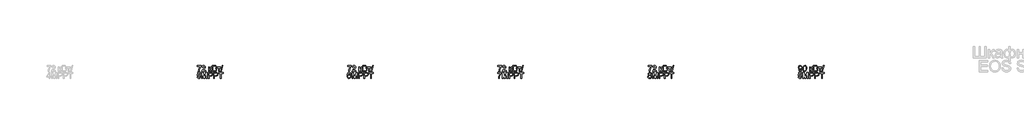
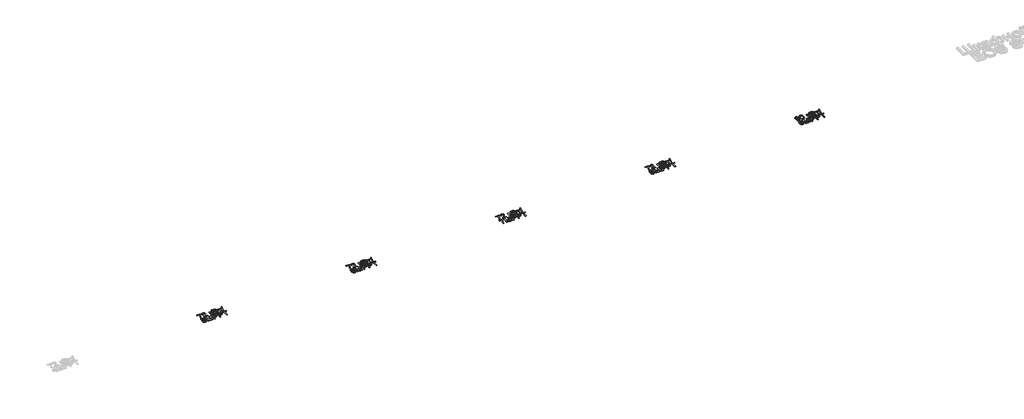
# One storey, part 23 of 26: 5 proxies.
"""IFC4 building model written with IfcOpenShell, lengths in millimetres."""

from ifc_helpers import new_model, si_unit, origin, origin_with_axes, place, context, project, spatial, polyline, outline, extrude, element, save

model = new_model("IFC4")

# Units and contexts
model_context = context("Model", 3, world=origin())
ifc_project = project(units=[si_unit("LENGTHUNIT", "METRE", prefix="MILLI")], contexts=[model_context])

# Site, building, storey
site = spatial("IfcSite", under=ifc_project)
building = spatial("IfcBuilding", under=site)
storey = spatial("IfcBuildingStorey", under=building, Name="Этаж 01", Elevation=0.0)

# Proxies
placement = place(None, origin())
element("IfcBuildingElementProxy", 1, Name="75 мм Arial", ObjectType="75 мм Arial", at=placement, inside=storey, context=model_context, shape_type="SweptSolid", body=[
    extrude(outline(polyline([(3781.5585542, -6950.1268309), (3781.5585542, -6940.7090518), (3831.0018943, -6940.7090518), (3831.0018943, -6948.3242091), (3816.9763933, -6968.58531), (3806.2434361, -6994.401429), (3802.7485571, -7014.874062), (3793.330778, -7014.874062), (3797.0739773, -6993.6288768), (3807.3470821, -6969.6153796), (3821.5841153, -6950.1268309), (3781.5585542, -6950.1268309)])), origin_with_axes(), (0.0, 0.0, 1.0), 5.0),
    extrude(outline(polyline([(3887.5085688, -7005.456283), (3887.5085688, -7014.874062), (3838.0652287, -7014.874062), (3839.0769041, -7008.3809448), (3844.7974692, -6998.3837516), (3856.5880871, -6987.4668534), (3872.8484713, -6971.7766863), (3876.9135673, -6961.1081084), (3873.0783975, -6952.4720786), (3863.0628102, -6948.9496085), (3852.6241586, -6952.3893052), (3848.6602301, -6961.8990547), (3839.242451, -6960.7218323), (3841.5256187, -6951.6121544), (3846.4621352, -6944.9580888), (3853.7944832, -6940.8883943), (3863.2651453, -6939.5318294), (3872.8047853, -6941.0401456), (3880.1233378, -6945.5650941), (3884.7793443, -6952.3249258), (3886.3313464, -6960.5378913), (3884.6574833, -6969.4682268), (3879.0932682, -6978.7020649), (3865.601196, -6991.6055258), (3854.7670712, -7000.66462), (3850.5180342, -7005.456283), (3887.5085688, -7005.456283)])), origin_with_axes(), (0.0, 0.0, 1.0), 5.0),
    extrude(outline(polyline([(3928.7113523, -6959.54461), (3938.1291313, -6959.54461), (3938.1291313, -6983.0890576), (3944.4383076, -6981.3968005), (3949.6070496, -6971.537563), (3953.9020719, -6963.0302919), (3957.6912564, -6960.2619798), (3964.5798468, -6959.54461), (3966.3824686, -6959.54461), (3966.3824686, -6969.0175713), (3963.8440828, -6968.962389), (3959.2455579, -6969.9556704), (3956.0081963, -6976.154482), (3952.2098147, -6982.8591314), (3946.8847228, -6986.1424782), (3958.6569467, -6997.528426), (3968.7369133, -7014.874062), (3958.0315473, -7014.874062), (3948.1539157, -6997.896308), (3943.1875088, -6990.713412), (3938.1291313, -6988.9751696), (3938.1291313, -7014.874062), (3928.7113523, -7014.874062), (3928.7113523, -6959.54461)])), origin_with_axes(), (0.0, 0.0, 1.0), 5.0),
    extrude(outline(polyline([(3975.8002476, -7014.874062), (3975.8002476, -6939.5318294), (4004.5502256, -6939.5318294), (4018.6309089, -6941.7483184), (4026.945042, -6948.5633324), (4029.9524773, -6958.2018407), (4027.4232886, -6967.0034174), (4019.7805402, -6973.6712786), (4029.0603635, -6980.6978247), (4032.3069221, -6992.4148662), (4030.0904331, -7002.5408181), (4024.5997943, -7009.7513052), (4016.4052229, -7013.577278), (4004.3294964, -7014.874062), (3975.8002476, -7014.874062)]), holes=[polyline([(3985.2180267, -7005.456283), (4004.5318315, -7005.456283), (4011.5215894, -7005.088401), (4017.4352925, -7003.0374588), (4021.3532357, -6998.8528011), (4022.889143, -6992.5068367), (4021.0865213, -6985.185985), (4015.2463946, -6980.8173863), (4003.6121265, -6979.5573905), (3985.2180267, -6979.5573905), (3985.2180267, -7005.456283)]), polyline([(3985.2180267, -6970.1396114), (4002.41651, -6970.1396114), (4012.4596885, -6969.330271), (4018.5021502, -6965.8445891), (4020.5346983, -6959.7101569), (4018.640106, -6953.5665275), (4013.2138466, -6949.9336928), (4001.1105289, -6948.9496085), (3985.2180267, -6948.9496085), (3985.2180267, -6970.1396114)])]), origin_with_axes(), (0.0, 0.0, 1.0), 5.0),
    extrude(outline(polyline([(4039.3702564, -6959.54461), (4084.104707, -6959.54461), (4084.104707, -6968.962389), (4066.4463713, -6968.962389), (4066.4463713, -7014.874062), (4057.0285922, -7014.874062), (4057.0285922, -6968.962389), (4039.3702564, -6968.962389), (4039.3702564, -6959.54461)])), origin_with_axes(), (0.0, 0.0, 1.0), 5.0),
    extrude(outline(polyline([(4085.2819294, -7014.874062), (4106.4719323, -6939.5318294), (4114.9700064, -6939.5318294), (4093.7800035, -7014.874062), (4085.2819294, -7014.874062)])), origin_with_axes(), (0.0, 0.0, 1.0), 5.0),
    extrude(outline(polyline([(3777.4382759, -7086.3423949), (3786.8560549, -7085.1651725), (3791.6017327, -7094.8680601), (3801.442576, -7098.1146187), (3813.2515881, -7093.5988672), (3817.4638369, -7081.6151112), (3813.5183025, -7070.4314986), (3801.5897288, -7066.3296143), (3793.321581, -7067.9666892), (3788.0332773, -7072.2157263), (3778.6154982, -7071.0385039), (3786.8560549, -7032.1901652), (3823.3499488, -7032.1901652), (3823.3499488, -7041.6079443), (3794.4712122, -7041.6079443), (3790.4429044, -7062.3564888), (3804.2200851, -7056.9118353), (3813.0193626, -7058.5994939), (3820.3241194, -7063.6624699), (3825.2422419, -7071.3787947), (3826.881616, -7081.0265), (3825.4054895, -7090.4442791), (3820.97711, -7098.5008948), (3812.49743, -7105.2745221), (3801.4057878, -7107.5323978), (3792.1558549, -7106.0815632), (3784.7867187, -7101.7290593), (3779.7352391, -7094.980724), (3777.4382759, -7086.3423949)])), origin_with_axes(), (0.0, 0.0, 1.0), 5.0),
    extrude(outline(polyline([(3838.6538398, -7106.3551754), (3838.6538398, -7031.0129428), (3854.8590417, -7031.0129428), (3870.2732973, -7084.1167088), (3873.3819002, -7095.208351), (3876.7480204, -7083.1970038), (3891.9047586, -7031.0129428), (3908.1099605, -7031.0129428), (3908.1099605, -7106.3551754), (3898.6921815, -7106.3551754), (3898.6921815, -7040.4307219), (3879.7646528, -7106.3551754), (3866.9991476, -7106.3551754), (3848.0716189, -7040.4307219), (3848.0716189, -7106.3551754), (3838.6538398, -7106.3551754)])), origin_with_axes(), (0.0, 0.0, 1.0), 5.0),
    extrude(outline(polyline([(3924.5910739, -7106.3551754), (3924.5910739, -7031.0129428), (3952.5133174, -7031.0129428), (3963.7705064, -7031.7303127), (3972.921571, -7035.2527828), (3978.8536682, -7042.5368463), (3981.0977484, -7052.809951), (3979.5825344, -7061.6897027), (3975.0368925, -7069.0887293), (3966.5365192, -7074.0827274), (3953.1571108, -7075.7473934), (3934.008853, -7075.7473934), (3934.008853, -7106.3551754), (3924.5910739, -7106.3551754)]), holes=[polyline([(3934.008853, -7066.3296143), (3953.7089338, -7066.3296143), (3967.5780851, -7062.8715236), (3971.6799693, -7053.1410448), (3969.2611452, -7045.3419465), (3962.9059837, -7041.0745154), (3953.4882046, -7040.4307219), (3934.008853, -7040.4307219), (3934.008853, -7066.3296143)])]), origin_with_axes(), (0.0, 0.0, 1.0), 5.0),
    extrude(outline(polyline([(3994.0471946, -7106.3551754), (3994.0471946, -7031.0129428), (4021.969438, -7031.0129428), (4033.2266271, -7031.7303127), (4042.3776917, -7035.2527828), (4048.3097889, -7042.5368463), (4050.5538691, -7052.809951), (4049.0386551, -7061.6897027), (4044.4930132, -7069.0887293), (4035.9926398, -7074.0827274), (4022.6132315, -7075.7473934), (4003.4649737, -7075.7473934), (4003.4649737, -7106.3551754), (3994.0471946, -7106.3551754)]), holes=[polyline([(4003.4649737, -7066.3296143), (4023.1650545, -7066.3296143), (4037.0342057, -7062.8715236), (4041.13609, -7053.1410448), (4038.7172659, -7045.3419465), (4032.3621044, -7041.0745154), (4022.9443253, -7040.4307219), (4003.4649737, -7040.4307219), (4003.4649737, -7066.3296143)])]), origin_with_axes(), (0.0, 0.0, 1.0), 5.0),
    extrude(outline(polyline([(4082.3388735, -7106.3551754), (4082.3388735, -7040.4307219), (4057.6172034, -7040.4307219), (4057.6172034, -7031.0129428), (4116.4783226, -7031.0129428), (4116.4783226, -7040.4307219), (4091.7566525, -7040.4307219), (4091.7566525, -7106.3551754), (4082.3388735, -7106.3551754)])), origin_with_axes(), (0.0, 0.0, 1.0), 5.0),
])
element("IfcBuildingElementProxy", 2, Name="75 мм Arial", ObjectType="75 мм Arial", at=placement, inside=storey, context=model_context, shape_type="SweptSolid", body=[
    extrude(outline(polyline([(5741.5585542, -6950.1268309), (5741.5585542, -6940.7090518), (5791.0018943, -6940.7090518), (5791.0018943, -6948.3242091), (5776.9763933, -6968.58531), (5766.2434361, -6994.401429), (5762.7485571, -7014.874062), (5753.330778, -7014.874062), (5757.0739773, -6993.6288768), (5767.3470821, -6969.6153796), (5781.5841153, -6950.1268309), (5741.5585542, -6950.1268309)])), origin_with_axes(), (0.0, 0.0, 1.0), 5.0),
    extrude(outline(polyline([(5847.5085688, -7005.456283), (5847.5085688, -7014.874062), (5798.0652287, -7014.874062), (5799.0769041, -7008.3809448), (5804.7974692, -6998.3837516), (5816.5880871, -6987.4668534), (5832.8484713, -6971.7766863), (5836.9135673, -6961.1081084), (5833.0783975, -6952.4720786), (5823.0628102, -6948.9496085), (5812.6241586, -6952.3893052), (5808.6602301, -6961.8990547), (5799.242451, -6960.7218323), (5801.5256187, -6951.6121544), (5806.4621352, -6944.9580888), (5813.7944832, -6940.8883943), (5823.2651453, -6939.5318294), (5832.8047853, -6941.0401456), (5840.1233378, -6945.5650941), (5844.7793443, -6952.3249258), (5846.3313464, -6960.5378913), (5844.6574833, -6969.4682268), (5839.0932682, -6978.7020649), (5825.601196, -6991.6055258), (5814.7670712, -7000.66462), (5810.5180342, -7005.456283), (5847.5085688, -7005.456283)])), origin_with_axes(), (0.0, 0.0, 1.0), 5.0),
    extrude(outline(polyline([(5888.7113523, -6959.54461), (5898.1291313, -6959.54461), (5898.1291313, -6983.0890576), (5904.4383076, -6981.3968005), (5909.6070496, -6971.537563), (5913.9020719, -6963.0302919), (5917.6912564, -6960.2619798), (5924.5798468, -6959.54461), (5926.3824686, -6959.54461), (5926.3824686, -6969.0175713), (5923.8440828, -6968.962389), (5919.2455579, -6969.9556704), (5916.0081963, -6976.154482), (5912.2098147, -6982.8591314), (5906.8847228, -6986.1424782), (5918.6569467, -6997.528426), (5928.7369133, -7014.874062), (5918.0315473, -7014.874062), (5908.1539157, -6997.896308), (5903.1875088, -6990.713412), (5898.1291313, -6988.9751696), (5898.1291313, -7014.874062), (5888.7113523, -7014.874062), (5888.7113523, -6959.54461)])), origin_with_axes(), (0.0, 0.0, 1.0), 5.0),
    extrude(outline(polyline([(5935.8002476, -7014.874062), (5935.8002476, -6939.5318294), (5964.5502256, -6939.5318294), (5978.6309089, -6941.7483184), (5986.945042, -6948.5633324), (5989.9524773, -6958.2018407), (5987.4232886, -6967.0034174), (5979.7805402, -6973.6712786), (5989.0603635, -6980.6978247), (5992.3069221, -6992.4148662), (5990.0904331, -7002.5408181), (5984.5997943, -7009.7513052), (5976.4052229, -7013.577278), (5964.3294964, -7014.874062), (5935.8002476, -7014.874062)]), holes=[polyline([(5945.2180267, -7005.456283), (5964.5318315, -7005.456283), (5971.5215894, -7005.088401), (5977.4352925, -7003.0374588), (5981.3532357, -6998.8528011), (5982.889143, -6992.5068367), (5981.0865213, -6985.185985), (5975.2463946, -6980.8173863), (5963.6121265, -6979.5573905), (5945.2180267, -6979.5573905), (5945.2180267, -7005.456283)]), polyline([(5945.2180267, -6970.1396114), (5962.41651, -6970.1396114), (5972.4596885, -6969.330271), (5978.5021502, -6965.8445891), (5980.5346983, -6959.7101569), (5978.640106, -6953.5665275), (5973.2138466, -6949.9336928), (5961.1105289, -6948.9496085), (5945.2180267, -6948.9496085), (5945.2180267, -6970.1396114)])]), origin_with_axes(), (0.0, 0.0, 1.0), 5.0),
    extrude(outline(polyline([(5999.3702564, -6959.54461), (6044.104707, -6959.54461), (6044.104707, -6968.962389), (6026.4463713, -6968.962389), (6026.4463713, -7014.874062), (6017.0285922, -7014.874062), (6017.0285922, -6968.962389), (5999.3702564, -6968.962389), (5999.3702564, -6959.54461)])), origin_with_axes(), (0.0, 0.0, 1.0), 5.0),
    extrude(outline(polyline([(6045.2819294, -7014.874062), (6066.4719323, -6939.5318294), (6074.9700064, -6939.5318294), (6053.7800035, -7014.874062), (6045.2819294, -7014.874062)])), origin_with_axes(), (0.0, 0.0, 1.0), 5.0),
    extrude(outline(polyline([(5785.7043936, -7051.0257233), (5776.2866145, -7052.2029457), (5772.7181592, -7044.3486651), (5763.281986, -7040.4307219), (5754.7839119, -7042.7115902), (5748.3551741, -7051.2740437), (5745.6788325, -7068.0586597), (5753.9837686, -7060.54467), (5764.2752674, -7058.0890576), (5772.9756766, -7059.7675193), (5780.2781342, -7064.8029041), (5785.2307455, -7072.4962363), (5786.881616, -7082.1485401), (5783.7730131, -7095.1439716), (5775.2197568, -7104.3410215), (5762.8773158, -7107.5323978), (5752.1926431, -7105.4170763), (5743.6830727, -7099.0711119), (5738.1165583, -7087.8691052), (5736.2610535, -7071.1856567), (5738.3211926, -7052.4282734), (5744.5016102, -7039.6029874), (5752.9399034, -7033.160454), (5763.8705972, -7031.0129428), (5778.7514239, -7036.3288376), (5785.7043936, -7051.0257233)]), holes=[polyline([(5745.6788325, -7082.0013873), (5747.8585334, -7090.1591706), (5753.6526748, -7096.0820707), (5762.1415518, -7098.1146187), (5773.242391, -7093.9023699), (5777.4638369, -7082.4612398), (5773.2975733, -7071.5075534), (5761.7552757, -7067.5068367), (5750.3601309, -7071.5075534), (5745.6788325, -7082.0013873)])]), origin_with_axes(), (0.0, 0.0, 1.0), 5.0),
    extrude(outline(polyline([(5798.6538398, -7106.3551754), (5798.6538398, -7031.0129428), (5814.8590417, -7031.0129428), (5830.2732973, -7084.1167088), (5833.3819002, -7095.208351), (5836.7480204, -7083.1970038), (5851.9047586, -7031.0129428), (5868.1099605, -7031.0129428), (5868.1099605, -7106.3551754), (5858.6921815, -7106.3551754), (5858.6921815, -7040.4307219), (5839.7646528, -7106.3551754), (5826.9991476, -7106.3551754), (5808.0716189, -7040.4307219), (5808.0716189, -7106.3551754), (5798.6538398, -7106.3551754)])), origin_with_axes(), (0.0, 0.0, 1.0), 5.0),
    extrude(outline(polyline([(5884.5910739, -7106.3551754), (5884.5910739, -7031.0129428), (5912.5133174, -7031.0129428), (5923.7705064, -7031.7303127), (5932.921571, -7035.2527828), (5938.8536682, -7042.5368463), (5941.0977484, -7052.809951), (5939.5825344, -7061.6897027), (5935.0368925, -7069.0887293), (5926.5365192, -7074.0827274), (5913.1571108, -7075.7473934), (5894.008853, -7075.7473934), (5894.008853, -7106.3551754), (5884.5910739, -7106.3551754)]), holes=[polyline([(5894.008853, -7066.3296143), (5913.7089338, -7066.3296143), (5927.5780851, -7062.8715236), (5931.6799693, -7053.1410448), (5929.2611452, -7045.3419465), (5922.9059837, -7041.0745154), (5913.4882046, -7040.4307219), (5894.008853, -7040.4307219), (5894.008853, -7066.3296143)])]), origin_with_axes(), (0.0, 0.0, 1.0), 5.0),
    extrude(outline(polyline([(5954.0471946, -7106.3551754), (5954.0471946, -7031.0129428), (5981.969438, -7031.0129428), (5993.2266271, -7031.7303127), (6002.3776917, -7035.2527828), (6008.3097889, -7042.5368463), (6010.5538691, -7052.809951), (6009.0386551, -7061.6897027), (6004.4930132, -7069.0887293), (5995.9926398, -7074.0827274), (5982.6132315, -7075.7473934), (5963.4649737, -7075.7473934), (5963.4649737, -7106.3551754), (5954.0471946, -7106.3551754)]), holes=[polyline([(5963.4649737, -7066.3296143), (5983.1650545, -7066.3296143), (5997.0342057, -7062.8715236), (6001.13609, -7053.1410448), (5998.7172659, -7045.3419465), (5992.3621044, -7041.0745154), (5982.9443253, -7040.4307219), (5963.4649737, -7040.4307219), (5963.4649737, -7066.3296143)])]), origin_with_axes(), (0.0, 0.0, 1.0), 5.0),
    extrude(outline(polyline([(6042.3388735, -7106.3551754), (6042.3388735, -7040.4307219), (6017.6172034, -7040.4307219), (6017.6172034, -7031.0129428), (6076.4783226, -7031.0129428), (6076.4783226, -7040.4307219), (6051.7566525, -7040.4307219), (6051.7566525, -7106.3551754), (6042.3388735, -7106.3551754)])), origin_with_axes(), (0.0, 0.0, 1.0), 5.0),
])
element("IfcBuildingElementProxy", 3, Name="75 мм Arial", ObjectType="75 мм Arial", at=placement, inside=storey, context=model_context, shape_type="SweptSolid", body=[
    extrude(outline(polyline([(7701.5585542, -6950.1268309), (7701.5585542, -6940.7090518), (7751.0018943, -6940.7090518), (7751.0018943, -6948.3242091), (7736.9763933, -6968.58531), (7726.2434361, -6994.401429), (7722.7485571, -7014.874062), (7713.330778, -7014.874062), (7717.0739773, -6993.6288768), (7727.3470821, -6969.6153796), (7741.5841153, -6950.1268309), (7701.5585542, -6950.1268309)])), origin_with_axes(), (0.0, 0.0, 1.0), 5.0),
    extrude(outline(polyline([(7807.5085688, -7005.456283), (7807.5085688, -7014.874062), (7758.0652287, -7014.874062), (7759.0769041, -7008.3809448), (7764.7974692, -6998.3837516), (7776.5880871, -6987.4668534), (7792.8484713, -6971.7766863), (7796.9135673, -6961.1081084), (7793.0783975, -6952.4720786), (7783.0628102, -6948.9496085), (7772.6241586, -6952.3893052), (7768.6602301, -6961.8990547), (7759.242451, -6960.7218323), (7761.5256187, -6951.6121544), (7766.4621352, -6944.9580888), (7773.7944832, -6940.8883943), (7783.2651453, -6939.5318294), (7792.8047853, -6941.0401456), (7800.1233378, -6945.5650941), (7804.7793443, -6952.3249258), (7806.3313464, -6960.5378913), (7804.6574833, -6969.4682268), (7799.0932682, -6978.7020649), (7785.601196, -6991.6055258), (7774.7670712, -7000.66462), (7770.5180342, -7005.456283), (7807.5085688, -7005.456283)])), origin_with_axes(), (0.0, 0.0, 1.0), 5.0),
    extrude(outline(polyline([(7848.7113523, -6959.54461), (7858.1291313, -6959.54461), (7858.1291313, -6983.0890576), (7864.4383076, -6981.3968005), (7869.6070496, -6971.537563), (7873.9020719, -6963.0302919), (7877.6912564, -6960.2619798), (7884.5798468, -6959.54461), (7886.3824686, -6959.54461), (7886.3824686, -6969.0175713), (7883.8440828, -6968.962389), (7879.2455579, -6969.9556704), (7876.0081963, -6976.154482), (7872.2098147, -6982.8591314), (7866.8847228, -6986.1424782), (7878.6569467, -6997.528426), (7888.7369133, -7014.874062), (7878.0315473, -7014.874062), (7868.1539157, -6997.896308), (7863.1875088, -6990.713412), (7858.1291313, -6988.9751696), (7858.1291313, -7014.874062), (7848.7113523, -7014.874062), (7848.7113523, -6959.54461)])), origin_with_axes(), (0.0, 0.0, 1.0), 5.0),
    extrude(outline(polyline([(7895.8002476, -7014.874062), (7895.8002476, -6939.5318294), (7924.5502256, -6939.5318294), (7938.6309089, -6941.7483184), (7946.945042, -6948.5633324), (7949.9524773, -6958.2018407), (7947.4232886, -6967.0034174), (7939.7805402, -6973.6712786), (7949.0603635, -6980.6978247), (7952.3069221, -6992.4148662), (7950.0904331, -7002.5408181), (7944.5997943, -7009.7513052), (7936.4052229, -7013.577278), (7924.3294964, -7014.874062), (7895.8002476, -7014.874062)]), holes=[polyline([(7905.2180267, -7005.456283), (7924.5318315, -7005.456283), (7931.5215894, -7005.088401), (7937.4352925, -7003.0374588), (7941.3532357, -6998.8528011), (7942.889143, -6992.5068367), (7941.0865213, -6985.185985), (7935.2463946, -6980.8173863), (7923.6121265, -6979.5573905), (7905.2180267, -6979.5573905), (7905.2180267, -7005.456283)]), polyline([(7905.2180267, -6970.1396114), (7922.41651, -6970.1396114), (7932.4596885, -6969.330271), (7938.5021502, -6965.8445891), (7940.5346983, -6959.7101569), (7938.640106, -6953.5665275), (7933.2138466, -6949.9336928), (7921.1105289, -6948.9496085), (7905.2180267, -6948.9496085), (7905.2180267, -6970.1396114)])]), origin_with_axes(), (0.0, 0.0, 1.0), 5.0),
    extrude(outline(polyline([(7959.3702564, -6959.54461), (8004.104707, -6959.54461), (8004.104707, -6968.962389), (7986.4463713, -6968.962389), (7986.4463713, -7014.874062), (7977.0285922, -7014.874062), (7977.0285922, -6968.962389), (7959.3702564, -6968.962389), (7959.3702564, -6959.54461)])), origin_with_axes(), (0.0, 0.0, 1.0), 5.0),
    extrude(outline(polyline([(8005.2819294, -7014.874062), (8026.4719323, -6939.5318294), (8034.9700064, -6939.5318294), (8013.7800035, -7014.874062), (8005.2819294, -7014.874062)])), origin_with_axes(), (0.0, 0.0, 1.0), 5.0),
    extrude(outline(polyline([(7697.4382759, -7041.6079443), (7697.4382759, -7032.1901652), (7746.881616, -7032.1901652), (7746.881616, -7039.8053225), (7732.8561149, -7060.0664234), (7722.1231577, -7085.8825424), (7718.6282788, -7106.3551754), (7709.2104997, -7106.3551754), (7712.953699, -7085.1099902), (7723.2268037, -7061.096493), (7737.4638369, -7041.6079443), (7697.4382759, -7041.6079443)])), origin_with_axes(), (0.0, 0.0, 1.0), 5.0),
    extrude(outline(polyline([(7758.6538398, -7106.3551754), (7758.6538398, -7031.0129428), (7774.8590417, -7031.0129428), (7790.2732973, -7084.1167088), (7793.3819002, -7095.208351), (7796.7480204, -7083.1970038), (7811.9047586, -7031.0129428), (7828.1099605, -7031.0129428), (7828.1099605, -7106.3551754), (7818.6921815, -7106.3551754), (7818.6921815, -7040.4307219), (7799.7646528, -7106.3551754), (7786.9991476, -7106.3551754), (7768.0716189, -7040.4307219), (7768.0716189, -7106.3551754), (7758.6538398, -7106.3551754)])), origin_with_axes(), (0.0, 0.0, 1.0), 5.0),
    extrude(outline(polyline([(7844.5910739, -7106.3551754), (7844.5910739, -7031.0129428), (7872.5133174, -7031.0129428), (7883.7705064, -7031.7303127), (7892.921571, -7035.2527828), (7898.8536682, -7042.5368463), (7901.0977484, -7052.809951), (7899.5825344, -7061.6897027), (7895.0368925, -7069.0887293), (7886.5365192, -7074.0827274), (7873.1571108, -7075.7473934), (7854.008853, -7075.7473934), (7854.008853, -7106.3551754), (7844.5910739, -7106.3551754)]), holes=[polyline([(7854.008853, -7066.3296143), (7873.7089338, -7066.3296143), (7887.5780851, -7062.8715236), (7891.6799693, -7053.1410448), (7889.2611452, -7045.3419465), (7882.9059837, -7041.0745154), (7873.4882046, -7040.4307219), (7854.008853, -7040.4307219), (7854.008853, -7066.3296143)])]), origin_with_axes(), (0.0, 0.0, 1.0), 5.0),
    extrude(outline(polyline([(7914.0471946, -7106.3551754), (7914.0471946, -7031.0129428), (7941.969438, -7031.0129428), (7953.2266271, -7031.7303127), (7962.3776917, -7035.2527828), (7968.3097889, -7042.5368463), (7970.5538691, -7052.809951), (7969.0386551, -7061.6897027), (7964.4930132, -7069.0887293), (7955.9926398, -7074.0827274), (7942.6132315, -7075.7473934), (7923.4649737, -7075.7473934), (7923.4649737, -7106.3551754), (7914.0471946, -7106.3551754)]), holes=[polyline([(7923.4649737, -7066.3296143), (7943.1650545, -7066.3296143), (7957.0342057, -7062.8715236), (7961.13609, -7053.1410448), (7958.7172659, -7045.3419465), (7952.3621044, -7041.0745154), (7942.9443253, -7040.4307219), (7923.4649737, -7040.4307219), (7923.4649737, -7066.3296143)])]), origin_with_axes(), (0.0, 0.0, 1.0), 5.0),
    extrude(outline(polyline([(8002.3388735, -7106.3551754), (8002.3388735, -7040.4307219), (7977.6172034, -7040.4307219), (7977.6172034, -7031.0129428), (8036.4783226, -7031.0129428), (8036.4783226, -7040.4307219), (8011.7566525, -7040.4307219), (8011.7566525, -7106.3551754), (8002.3388735, -7106.3551754)])), origin_with_axes(), (0.0, 0.0, 1.0), 5.0),
])
element("IfcBuildingElementProxy", 4, Name="75 мм Arial", ObjectType="75 мм Arial", at=placement, inside=storey, context=model_context, shape_type="SweptSolid", body=[
    extrude(outline(polyline([(9661.5585542, -6950.1268309), (9661.5585542, -6940.7090518), (9711.0018943, -6940.7090518), (9711.0018943, -6948.3242091), (9696.9763933, -6968.58531), (9686.2434361, -6994.401429), (9682.7485571, -7014.874062), (9673.330778, -7014.874062), (9677.0739773, -6993.6288768), (9687.3470821, -6969.6153796), (9701.5841153, -6950.1268309), (9661.5585542, -6950.1268309)])), origin_with_axes(), (0.0, 0.0, 1.0), 5.0),
    extrude(outline(polyline([(9767.5085688, -7005.456283), (9767.5085688, -7014.874062), (9718.0652287, -7014.874062), (9719.0769041, -7008.3809448), (9724.7974692, -6998.3837516), (9736.5880871, -6987.4668534), (9752.8484713, -6971.7766863), (9756.9135673, -6961.1081084), (9753.0783975, -6952.4720786), (9743.0628102, -6948.9496085), (9732.6241586, -6952.3893052), (9728.6602301, -6961.8990547), (9719.242451, -6960.7218323), (9721.5256187, -6951.6121544), (9726.4621352, -6944.9580888), (9733.7944832, -6940.8883943), (9743.2651453, -6939.5318294), (9752.8047853, -6941.0401456), (9760.1233378, -6945.5650941), (9764.7793443, -6952.3249258), (9766.3313464, -6960.5378913), (9764.6574833, -6969.4682268), (9759.0932682, -6978.7020649), (9745.601196, -6991.6055258), (9734.7670712, -7000.66462), (9730.5180342, -7005.456283), (9767.5085688, -7005.456283)])), origin_with_axes(), (0.0, 0.0, 1.0), 5.0),
    extrude(outline(polyline([(9808.7113523, -6959.54461), (9818.1291313, -6959.54461), (9818.1291313, -6983.0890576), (9824.4383076, -6981.3968005), (9829.6070496, -6971.537563), (9833.9020719, -6963.0302919), (9837.6912564, -6960.2619798), (9844.5798468, -6959.54461), (9846.3824686, -6959.54461), (9846.3824686, -6969.0175713), (9843.8440828, -6968.962389), (9839.2455579, -6969.9556704), (9836.0081963, -6976.154482), (9832.2098147, -6982.8591314), (9826.8847228, -6986.1424782), (9838.6569467, -6997.528426), (9848.7369133, -7014.874062), (9838.0315473, -7014.874062), (9828.1539157, -6997.896308), (9823.1875088, -6990.713412), (9818.1291313, -6988.9751696), (9818.1291313, -7014.874062), (9808.7113523, -7014.874062), (9808.7113523, -6959.54461)])), origin_with_axes(), (0.0, 0.0, 1.0), 5.0),
    extrude(outline(polyline([(9855.8002476, -7014.874062), (9855.8002476, -6939.5318294), (9884.5502256, -6939.5318294), (9898.6309089, -6941.7483184), (9906.945042, -6948.5633324), (9909.9524773, -6958.2018407), (9907.4232886, -6967.0034174), (9899.7805402, -6973.6712786), (9909.0603635, -6980.6978247), (9912.3069221, -6992.4148662), (9910.0904331, -7002.5408181), (9904.5997943, -7009.7513052), (9896.4052229, -7013.577278), (9884.3294964, -7014.874062), (9855.8002476, -7014.874062)]), holes=[polyline([(9865.2180267, -7005.456283), (9884.5318315, -7005.456283), (9891.5215894, -7005.088401), (9897.4352925, -7003.0374588), (9901.3532357, -6998.8528011), (9902.889143, -6992.5068367), (9901.0865213, -6985.185985), (9895.2463946, -6980.8173863), (9883.6121265, -6979.5573905), (9865.2180267, -6979.5573905), (9865.2180267, -7005.456283)]), polyline([(9865.2180267, -6970.1396114), (9882.41651, -6970.1396114), (9892.4596885, -6969.330271), (9898.5021502, -6965.8445891), (9900.5346983, -6959.7101569), (9898.640106, -6953.5665275), (9893.2138466, -6949.9336928), (9881.1105289, -6948.9496085), (9865.2180267, -6948.9496085), (9865.2180267, -6970.1396114)])]), origin_with_axes(), (0.0, 0.0, 1.0), 5.0),
    extrude(outline(polyline([(9919.3702564, -6959.54461), (9964.104707, -6959.54461), (9964.104707, -6968.962389), (9946.4463713, -6968.962389), (9946.4463713, -7014.874062), (9937.0285922, -7014.874062), (9937.0285922, -6968.962389), (9919.3702564, -6968.962389), (9919.3702564, -6959.54461)])), origin_with_axes(), (0.0, 0.0, 1.0), 5.0),
    extrude(outline(polyline([(9965.2819294, -7014.874062), (9986.4719323, -6939.5318294), (9994.9700064, -6939.5318294), (9973.7800035, -7014.874062), (9965.2819294, -7014.874062)])), origin_with_axes(), (0.0, 0.0, 1.0), 5.0),
    extrude(outline(polyline([(9671.1602743, -7064.8580864), (9662.5794267, -7059.0087626), (9659.7927206, -7049.9036833), (9661.3102338, -7042.5414448), (9665.8627735, -7036.4575963), (9672.9399034, -7032.3741062), (9682.0311872, -7031.0129428), (9691.1776533, -7032.4062959), (9698.3467537, -7036.586355), (9702.9820669, -7042.7667725), (9704.5271712, -7050.1612007), (9701.7772533, -7059.0363538), (9693.4355291, -7064.8580864), (9703.4511164, -7072.2433174), (9706.881616, -7084.4294085), (9705.1801618, -7093.4333203), (9700.0757991, -7100.8737337), (9692.1939273, -7105.8677318), (9682.1599459, -7107.5323978), (9672.1259645, -7105.860834), (9664.2440928, -7100.8461425), (9659.1397301, -7093.334452), (9657.4382759, -7084.1718911), (9661.0067312, -7071.7006915), (9671.1602743, -7064.8580864)]), holes=[polyline([(9666.8560549, -7083.8407973), (9668.4287505, -7090.9317228), (9673.9929656, -7096.2384205), (9682.2335223, -7098.1146187), (9693.4539232, -7094.1690843), (9697.4638369, -7084.1351029), (9693.3251645, -7073.9079834), (9681.9208226, -7069.8612815), (9670.8383775, -7073.8528011), (9666.8560549, -7083.8407973)]), polyline([(9669.2104997, -7050.1795948), (9672.5490288, -7057.5740229), (9682.2703105, -7060.4435024), (9691.7984542, -7057.592417), (9695.1093922, -7050.602659), (9691.6880896, -7043.3645808), (9682.1599459, -7040.4307219), (9672.6042111, -7043.3002014), (9669.2104997, -7050.1795948)])]), origin_with_axes(), (0.0, 0.0, 1.0), 5.0),
    extrude(outline(polyline([(9718.6538398, -7106.3551754), (9718.6538398, -7031.0129428), (9734.8590417, -7031.0129428), (9750.2732973, -7084.1167088), (9753.3819002, -7095.208351), (9756.7480204, -7083.1970038), (9771.9047586, -7031.0129428), (9788.1099605, -7031.0129428), (9788.1099605, -7106.3551754), (9778.6921815, -7106.3551754), (9778.6921815, -7040.4307219), (9759.7646528, -7106.3551754), (9746.9991476, -7106.3551754), (9728.0716189, -7040.4307219), (9728.0716189, -7106.3551754), (9718.6538398, -7106.3551754)])), origin_with_axes(), (0.0, 0.0, 1.0), 5.0),
    extrude(outline(polyline([(9804.5910739, -7106.3551754), (9804.5910739, -7031.0129428), (9832.5133174, -7031.0129428), (9843.7705064, -7031.7303127), (9852.921571, -7035.2527828), (9858.8536682, -7042.5368463), (9861.0977484, -7052.809951), (9859.5825344, -7061.6897027), (9855.0368925, -7069.0887293), (9846.5365192, -7074.0827274), (9833.1571108, -7075.7473934), (9814.008853, -7075.7473934), (9814.008853, -7106.3551754), (9804.5910739, -7106.3551754)]), holes=[polyline([(9814.008853, -7066.3296143), (9833.7089338, -7066.3296143), (9847.5780851, -7062.8715236), (9851.6799693, -7053.1410448), (9849.2611452, -7045.3419465), (9842.9059837, -7041.0745154), (9833.4882046, -7040.4307219), (9814.008853, -7040.4307219), (9814.008853, -7066.3296143)])]), origin_with_axes(), (0.0, 0.0, 1.0), 5.0),
    extrude(outline(polyline([(9874.0471946, -7106.3551754), (9874.0471946, -7031.0129428), (9901.969438, -7031.0129428), (9913.2266271, -7031.7303127), (9922.3776917, -7035.2527828), (9928.3097889, -7042.5368463), (9930.5538691, -7052.809951), (9929.0386551, -7061.6897027), (9924.4930132, -7069.0887293), (9915.9926398, -7074.0827274), (9902.6132315, -7075.7473934), (9883.4649737, -7075.7473934), (9883.4649737, -7106.3551754), (9874.0471946, -7106.3551754)]), holes=[polyline([(9883.4649737, -7066.3296143), (9903.1650545, -7066.3296143), (9917.0342057, -7062.8715236), (9921.13609, -7053.1410448), (9918.7172659, -7045.3419465), (9912.3621044, -7041.0745154), (9902.9443253, -7040.4307219), (9883.4649737, -7040.4307219), (9883.4649737, -7066.3296143)])]), origin_with_axes(), (0.0, 0.0, 1.0), 5.0),
    extrude(outline(polyline([(9962.3388735, -7106.3551754), (9962.3388735, -7040.4307219), (9937.6172034, -7040.4307219), (9937.6172034, -7031.0129428), (9996.4783226, -7031.0129428), (9996.4783226, -7040.4307219), (9971.7566525, -7040.4307219), (9971.7566525, -7106.3551754), (9962.3388735, -7106.3551754)])), origin_with_axes(), (0.0, 0.0, 1.0), 5.0),
])
element("IfcBuildingElementProxy", 5, Name="75 мм Arial", ObjectType="75 мм Arial", at=placement, inside=storey, context=model_context, shape_type="SweptSolid", body=[
    extrude(outline(polyline([(11622.7357766, -6996.0385039), (11632.1535557, -6994.8612815), (11636.3841986, -7003.8467992), (11644.4040261, -7006.6335053), (11652.0283804, -7004.8400806), (11657.1971225, -7000.0484176), (11660.2781342, -6991.8630432), (11661.6392976, -6980.936948), (11661.5841153, -6979.097538), (11654.0517314, -6986.2344487), (11643.7234444, -6988.9751696), (11635.1356991, -6987.3013065), (11627.9872921, -6982.2797173), (11623.1657387, -6974.5220057), (11621.5585542, -6964.6397756), (11623.2439136, -6954.4310502), (11628.2999918, -6946.4296168), (11635.8944557, -6941.2562763), (11645.1949724, -6939.5318294), (11658.6134682, -6943.4681668), (11667.8473062, -6954.6885676), (11671.0018943, -6975.7682059), (11667.8565033, -6998.641269), (11658.5031036, -7011.5999123), (11643.9625677, -7016.0512844), (11629.4864112, -7010.7997689), (11622.7357766, -6996.0385039)]), holes=[polyline([(11661.5841153, -6964.4190464), (11657.5190192, -6953.1250691), (11646.7216827, -6948.9496085), (11635.3909172, -6953.4469659), (11630.9763333, -6965.0996281), (11635.1517939, -6975.5382797), (11646.4641653, -6979.5573905), (11657.3258812, -6975.5382797), (11661.5841153, -6964.4190464)])]), origin_with_axes(), (0.0, 0.0, 1.0), 5.0),
    extrude(outline(polyline([(11679.242451, -6977.809951), (11682.0107631, -6956.1325045), (11690.2329256, -6943.6337137), (11703.9641211, -6939.5318294), (11714.9637928, -6941.9598506), (11722.560556, -6948.9588055), (11726.9751399, -6960.10563), (11728.6857912, -6977.809951), (11725.9450703, -6999.3954271), (11717.7504989, -7011.921809), (11703.9641211, -7016.0512844), (11694.17846, -7014.2578597), (11686.7472437, -7008.8775855), (11681.1186492, -6996.1350729), (11679.242451, -6977.809951)]), holes=[polyline([(11688.6602301, -6977.7915569), (11689.7638761, -6992.605705), (11693.0748141, -7001.1796548), (11703.9641211, -7006.6335053), (11714.8534282, -7001.1612607), (11718.1643661, -6992.5827124), (11719.2680121, -6977.7915569), (11715.000581, -6954.6701735), (11703.8537565, -6948.9496085), (11693.2219669, -6953.9895918), (11689.8006643, -6963.1682476), (11688.6602301, -6977.7915569)])]), origin_with_axes(), (0.0, 0.0, 1.0), 5.0),
    extrude(outline(polyline([(11768.7113523, -6959.54461), (11778.1291313, -6959.54461), (11778.1291313, -6983.0890576), (11784.4383076, -6981.3968005), (11789.6070496, -6971.537563), (11793.9020719, -6963.0302919), (11797.6912564, -6960.2619798), (11804.5798468, -6959.54461), (11806.3824686, -6959.54461), (11806.3824686, -6969.0175713), (11803.8440828, -6968.962389), (11799.2455579, -6969.9556704), (11796.0081963, -6976.154482), (11792.2098147, -6982.8591314), (11786.8847228, -6986.1424782), (11798.6569467, -6997.528426), (11808.7369133, -7014.874062), (11798.0315473, -7014.874062), (11788.1539157, -6997.896308), (11783.1875088, -6990.713412), (11778.1291313, -6988.9751696), (11778.1291313, -7014.874062), (11768.7113523, -7014.874062), (11768.7113523, -6959.54461)])), origin_with_axes(), (0.0, 0.0, 1.0), 5.0),
    extrude(outline(polyline([(11815.8002476, -7014.874062), (11815.8002476, -6939.5318294), (11844.5502256, -6939.5318294), (11858.6309089, -6941.7483184), (11866.945042, -6948.5633324), (11869.9524773, -6958.2018407), (11867.4232886, -6967.0034174), (11859.7805402, -6973.6712786), (11869.0603635, -6980.6978247), (11872.3069221, -6992.4148662), (11870.0904331, -7002.5408181), (11864.5997943, -7009.7513052), (11856.4052229, -7013.577278), (11844.3294964, -7014.874062), (11815.8002476, -7014.874062)]), holes=[polyline([(11825.2180267, -6970.1396114), (11842.41651, -6970.1396114), (11852.4596885, -6969.330271), (11858.5021502, -6965.8445891), (11860.5346983, -6959.7101569), (11858.640106, -6953.5665275), (11853.2138466, -6949.9336928), (11841.1105289, -6948.9496085), (11825.2180267, -6948.9496085), (11825.2180267, -6970.1396114)]), polyline([(11825.2180267, -7005.456283), (11844.5318315, -7005.456283), (11851.5215894, -7005.088401), (11857.4352925, -7003.0374588), (11861.3532357, -6998.8528011), (11862.889143, -6992.5068367), (11861.0865213, -6985.185985), (11855.2463946, -6980.8173863), (11843.6121265, -6979.5573905), (11825.2180267, -6979.5573905), (11825.2180267, -7005.456283)])]), origin_with_axes(), (0.0, 0.0, 1.0), 5.0),
    extrude(outline(polyline([(11879.3702564, -6959.54461), (11924.104707, -6959.54461), (11924.104707, -6968.962389), (11906.4463713, -6968.962389), (11906.4463713, -7014.874062), (11897.0285922, -7014.874062), (11897.0285922, -6968.962389), (11879.3702564, -6968.962389), (11879.3702564, -6959.54461)])), origin_with_axes(), (0.0, 0.0, 1.0), 5.0),
    extrude(outline(polyline([(11925.2819294, -7014.874062), (11946.4719323, -6939.5318294), (11954.9700064, -6939.5318294), (11933.7800035, -7014.874062), (11925.2819294, -7014.874062)])), origin_with_axes(), (0.0, 0.0, 1.0), 5.0),
    extrude(outline(polyline([(11617.4382759, -7086.3423949), (11626.8560549, -7085.1651725), (11631.6017327, -7094.8680601), (11641.442576, -7098.1146187), (11653.2515881, -7093.5988672), (11657.4638369, -7081.6151112), (11653.5183025, -7070.4314986), (11641.5897288, -7066.3296143), (11633.321581, -7067.9666892), (11628.0332773, -7072.2157263), (11618.6154982, -7071.0385039), (11626.8560549, -7032.1901652), (11663.3499488, -7032.1901652), (11663.3499488, -7041.6079443), (11634.4712122, -7041.6079443), (11630.4429044, -7062.3564888), (11644.2200851, -7056.9118353), (11653.0193626, -7058.5994939), (11660.3241194, -7063.6624699), (11665.2422419, -7071.3787947), (11666.881616, -7081.0265), (11665.4054895, -7090.4442791), (11660.97711, -7098.5008948), (11652.49743, -7105.2745221), (11641.4057878, -7107.5323978), (11632.1558549, -7106.0815632), (11624.7867187, -7101.7290593), (11619.7352391, -7094.980724), (11617.4382759, -7086.3423949)])), origin_with_axes(), (0.0, 0.0, 1.0), 5.0),
    extrude(outline(polyline([(11678.6538398, -7106.3551754), (11678.6538398, -7031.0129428), (11694.8590417, -7031.0129428), (11710.2732973, -7084.1167088), (11713.3819002, -7095.208351), (11716.7480204, -7083.1970038), (11731.9047586, -7031.0129428), (11748.1099605, -7031.0129428), (11748.1099605, -7106.3551754), (11738.6921815, -7106.3551754), (11738.6921815, -7040.4307219), (11719.7646528, -7106.3551754), (11706.9991476, -7106.3551754), (11688.0716189, -7040.4307219), (11688.0716189, -7106.3551754), (11678.6538398, -7106.3551754)])), origin_with_axes(), (0.0, 0.0, 1.0), 5.0),
    extrude(outline(polyline([(11764.5910739, -7106.3551754), (11764.5910739, -7031.0129428), (11792.5133174, -7031.0129428), (11803.7705064, -7031.7303127), (11812.921571, -7035.2527828), (11818.8536682, -7042.5368463), (11821.0977484, -7052.809951), (11819.5825344, -7061.6897027), (11815.0368925, -7069.0887293), (11806.5365192, -7074.0827274), (11793.1571108, -7075.7473934), (11774.008853, -7075.7473934), (11774.008853, -7106.3551754), (11764.5910739, -7106.3551754)]), holes=[polyline([(11774.008853, -7066.3296143), (11793.7089338, -7066.3296143), (11807.5780851, -7062.8715236), (11811.6799693, -7053.1410448), (11809.2611452, -7045.3419465), (11802.9059837, -7041.0745154), (11793.4882046, -7040.4307219), (11774.008853, -7040.4307219), (11774.008853, -7066.3296143)])]), origin_with_axes(), (0.0, 0.0, 1.0), 5.0),
    extrude(outline(polyline([(11834.0471946, -7106.3551754), (11834.0471946, -7031.0129428), (11861.969438, -7031.0129428), (11873.2266271, -7031.7303127), (11882.3776917, -7035.2527828), (11888.3097889, -7042.5368463), (11890.5538691, -7052.809951), (11889.0386551, -7061.6897027), (11884.4930132, -7069.0887293), (11875.9926398, -7074.0827274), (11862.6132315, -7075.7473934), (11843.4649737, -7075.7473934), (11843.4649737, -7106.3551754), (11834.0471946, -7106.3551754)]), holes=[polyline([(11843.4649737, -7066.3296143), (11863.1650545, -7066.3296143), (11877.0342057, -7062.8715236), (11881.13609, -7053.1410448), (11878.7172659, -7045.3419465), (11872.3621044, -7041.0745154), (11862.9443253, -7040.4307219), (11843.4649737, -7040.4307219), (11843.4649737, -7066.3296143)])]), origin_with_axes(), (0.0, 0.0, 1.0), 5.0),
    extrude(outline(polyline([(11922.3388735, -7106.3551754), (11922.3388735, -7040.4307219), (11897.6172034, -7040.4307219), (11897.6172034, -7031.0129428), (11956.4783226, -7031.0129428), (11956.4783226, -7040.4307219), (11931.7566525, -7040.4307219), (11931.7566525, -7106.3551754), (11922.3388735, -7106.3551754)])), origin_with_axes(), (0.0, 0.0, 1.0), 5.0),
])

save(model, "model.ifc")
